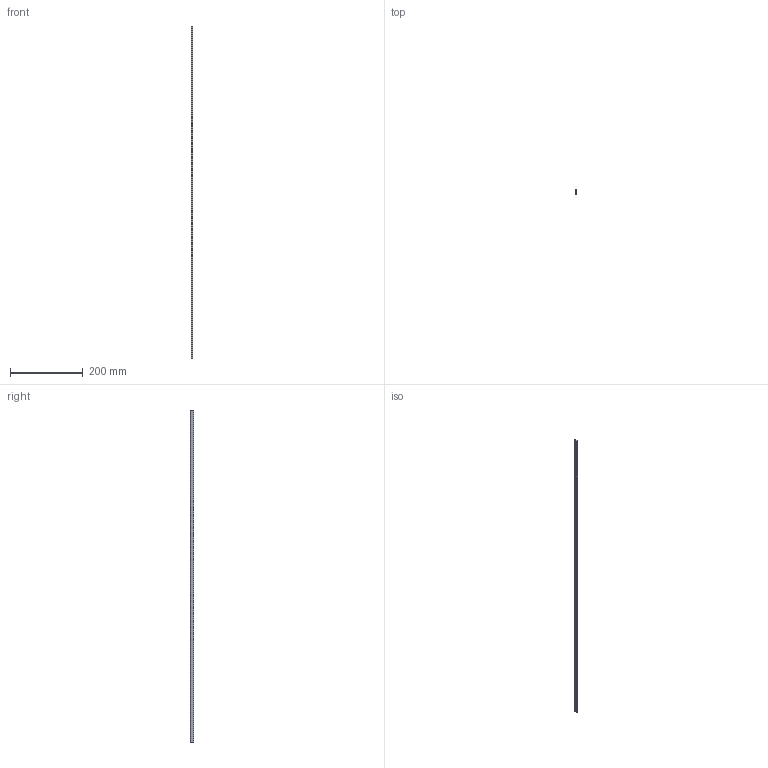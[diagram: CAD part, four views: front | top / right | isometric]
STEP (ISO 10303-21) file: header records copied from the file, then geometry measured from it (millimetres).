
FILE_DESCRIPTION( ( 'STEP AP214' ), '1' );
FILE_NAME( 'p:/temp/worker_36/temp/app_47_02019012316353761755921192d056f_000000_00_00_000000/format_0/T1-3.stp', '2019-01-23T15:35:38', ( '' ), ( '' ), ' ', 'PARTsolutions', ' ' );
FILE_SCHEMA( ( 'AUTOMOTIVE_DESIGN { 1 0 10303 214 1 1 1 1 }' ) );
Length unit declared in the file: inch
Products named in the file (1): _T1-3
Bounding box: 4.75 x 10.46 x 914.4 mm (x, y, z)
Volume: 30900.3 mm3; surface area: 26558.4 mm2
Topology: 1 solids, 1 shells, 11 faces, 27 edges, 18 vertices
Faces by surface type: plane 10, cylinder 1
Entity records: 427 total; most frequent: CARTESIAN_POINT 57, ORIENTED_EDGE 54, DIRECTION 53, EDGE_CURVE 27, LINE 25, VECTOR 25, VERTEX_POINT 18, AXIS2_PLACEMENT_3D 14
